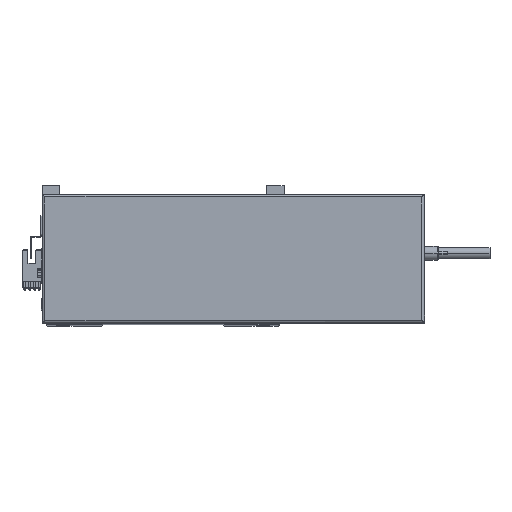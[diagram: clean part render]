
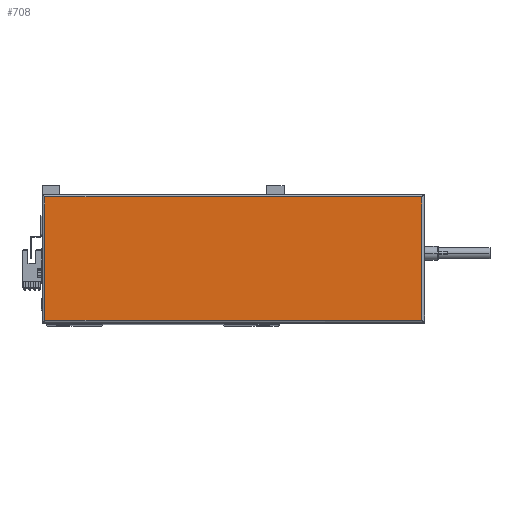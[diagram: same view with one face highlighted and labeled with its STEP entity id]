
A CAD part, top view. The second image highlights one B-rep face of the part: STEP entity #708.
In plain terms, the highlighted planar face has unit normal (0, 0, 1).
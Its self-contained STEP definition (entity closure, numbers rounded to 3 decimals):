
#708 = ADVANCED_FACE ( 'NONE', ( #46260 ), #37611, .T. ) ;
#1561 = ORIENTED_EDGE ( 'NONE', *, *, #4356, .T. ) ;
#1691 = DIRECTION ( 'NONE',  ( 0., -1., 0. ) ) ;
#2352 = CARTESIAN_POINT ( 'NONE',  ( 2., 0., 44.8 ) ) ;
#3158 = DIRECTION ( 'NONE',  ( 1., 0., 0. ) ) ;
#4054 = EDGE_CURVE ( 'NONE', #31946, #40723, #15801, .T. ) ;
#4356 = EDGE_CURVE ( 'NONE', #27561, #31946, #44979, .T. ) ;
#4854 = DIRECTION ( 'NONE',  ( 1., 0., 0. ) ) ;
#5529 = EDGE_CURVE ( 'NONE', #14691, #27561, #9035, .T. ) ;
#6274 = LINE ( 'NONE', #8469, #48173 ) ;
#6548 = DIRECTION ( 'NONE',  ( 0., 0., 1. ) ) ;
#7367 = DIRECTION ( 'NONE',  ( 0., 1., 0. ) ) ;
#8469 = CARTESIAN_POINT ( 'NONE',  ( 267., 2., 44.8 ) ) ;
#9035 = LINE ( 'NONE', #26693, #28435 ) ;
#11001 = CARTESIAN_POINT ( 'NONE',  ( 265., 88., 44.8 ) ) ;
#11719 = EDGE_LOOP ( 'NONE', ( #48964, #1561, #36574, #25071 ) ) ;
#14691 = VERTEX_POINT ( 'NONE', #24403 ) ;
#15549 = CARTESIAN_POINT ( 'NONE',  ( 2., 88., 44.8 ) ) ;
#15801 = LINE ( 'NONE', #2352, #24909 ) ;
#23412 = AXIS2_PLACEMENT_3D ( 'NONE', #41699, #6548, #3158 ) ;
#24403 = CARTESIAN_POINT ( 'NONE',  ( 265., 2., 44.8 ) ) ;
#24909 = VECTOR ( 'NONE', #1691, 1000. ) ;
#25071 = ORIENTED_EDGE ( 'NONE', *, *, #36901, .T. ) ;
#26693 = CARTESIAN_POINT ( 'NONE',  ( 265., 90., 44.8 ) ) ;
#27064 = DIRECTION ( 'NONE',  ( -1., 0., 0. ) ) ;
#27561 = VERTEX_POINT ( 'NONE', #11001 ) ;
#28435 = VECTOR ( 'NONE', #7367, 1000. ) ;
#31946 = VERTEX_POINT ( 'NONE', #15549 ) ;
#34609 = VECTOR ( 'NONE', #27064, 1000. ) ;
#36574 = ORIENTED_EDGE ( 'NONE', *, *, #4054, .T. ) ;
#36901 = EDGE_CURVE ( 'NONE', #40723, #14691, #6274, .T. ) ;
#37611 = PLANE ( 'NONE',  #23412 ) ;
#38352 = CARTESIAN_POINT ( 'NONE',  ( 2., 2., 44.8 ) ) ;
#40723 = VERTEX_POINT ( 'NONE', #38352 ) ;
#41699 = CARTESIAN_POINT ( 'NONE',  ( 133.5, 45., 44.8 ) ) ;
#44979 = LINE ( 'NONE', #49879, #34609 ) ;
#46260 = FACE_OUTER_BOUND ( 'NONE', #11719, .T. ) ;
#48173 = VECTOR ( 'NONE', #4854, 1000. ) ;
#48964 = ORIENTED_EDGE ( 'NONE', *, *, #5529, .T. ) ;
#49879 = CARTESIAN_POINT ( 'NONE',  ( 0., 88., 44.8 ) ) ;
